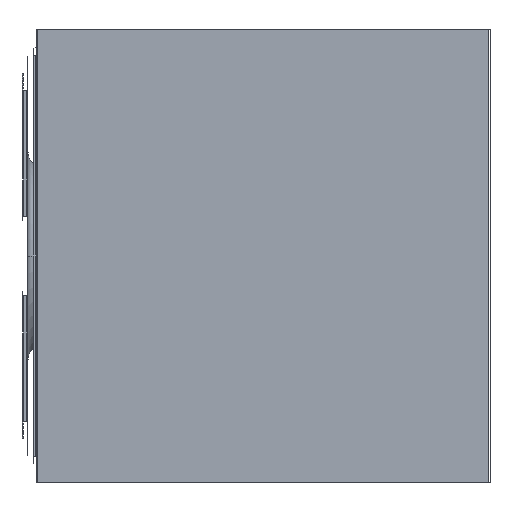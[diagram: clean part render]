
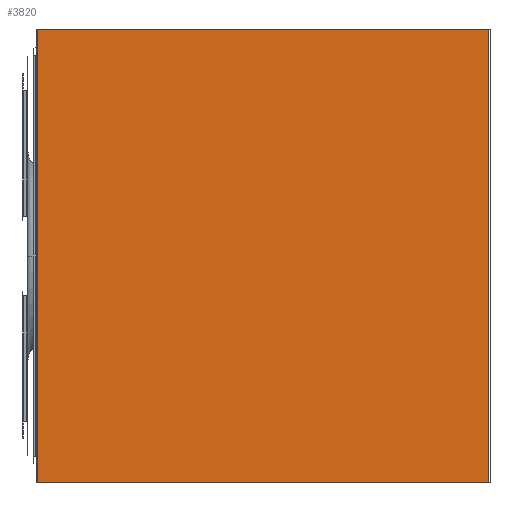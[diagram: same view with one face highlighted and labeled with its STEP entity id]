
A CAD part, front view. The second image highlights one B-rep face of the part: STEP entity #3820.
In plain terms, the highlighted planar face has unit normal (0, -1, 0).
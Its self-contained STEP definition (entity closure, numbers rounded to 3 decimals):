
#3312=DIRECTION('',(-1.,0.,0.));
#3313=VECTOR('',#3312,99.4);
#3314=CARTESIAN_POINT('',(96.7,-3.7,50.));
#3315=LINE('',#3314,#3313);
#3453=DIRECTION('',(-1.,0.,0.));
#3454=VECTOR('',#3453,99.4);
#3455=CARTESIAN_POINT('',(96.7,-3.7,-50.));
#3456=LINE('',#3455,#3454);
#3518=DIRECTION('',(0.,0.,-1.));
#3519=VECTOR('',#3518,100.);
#3520=CARTESIAN_POINT('',(96.7,-3.7,50.));
#3521=LINE('',#3520,#3519);
#3522=DIRECTION('',(0.,0.,1.));
#3523=VECTOR('',#3522,100.);
#3524=CARTESIAN_POINT('',(-2.7,-3.7,-50.));
#3525=LINE('',#3524,#3523);
#3546=CARTESIAN_POINT('',(96.7,-3.7,50.));
#3548=VERTEX_POINT('',#3546);
#3552=CARTESIAN_POINT('',(96.7,-3.7,-50.));
#3553=VERTEX_POINT('',#3552);
#3563=CARTESIAN_POINT('',(-2.7,-3.7,50.));
#3565=VERTEX_POINT('',#3563);
#3566=CARTESIAN_POINT('',(-2.7,-3.7,-50.));
#3567=VERTEX_POINT('',#3566);
#3808=CARTESIAN_POINT('',(97.,-3.7,50.));
#3809=DIRECTION('',(0.,-1.,0.));
#3810=DIRECTION('',(-1.,0.,0.));
#3811=AXIS2_PLACEMENT_3D('',#3808,#3809,#3810);
#3812=PLANE('',#3811);
#3814=ORIENTED_EDGE('',*,*,#3813,.T.);
#3815=ORIENTED_EDGE('',*,*,#3680,.T.);
#3816=ORIENTED_EDGE('',*,*,#3801,.T.);
#3817=ORIENTED_EDGE('',*,*,#3613,.F.);
#3818=EDGE_LOOP('',(#3814,#3815,#3816,#3817));
#3819=FACE_OUTER_BOUND('',#3818,.F.);
#3820=ADVANCED_FACE('',(#3819),#3812,.T.);
#3613=EDGE_CURVE('',#3548,#3565,#3315,.T.);
#3680=EDGE_CURVE('',#3553,#3567,#3456,.T.);
#3801=EDGE_CURVE('',#3567,#3565,#3525,.T.);
#3813=EDGE_CURVE('',#3548,#3553,#3521,.T.);
